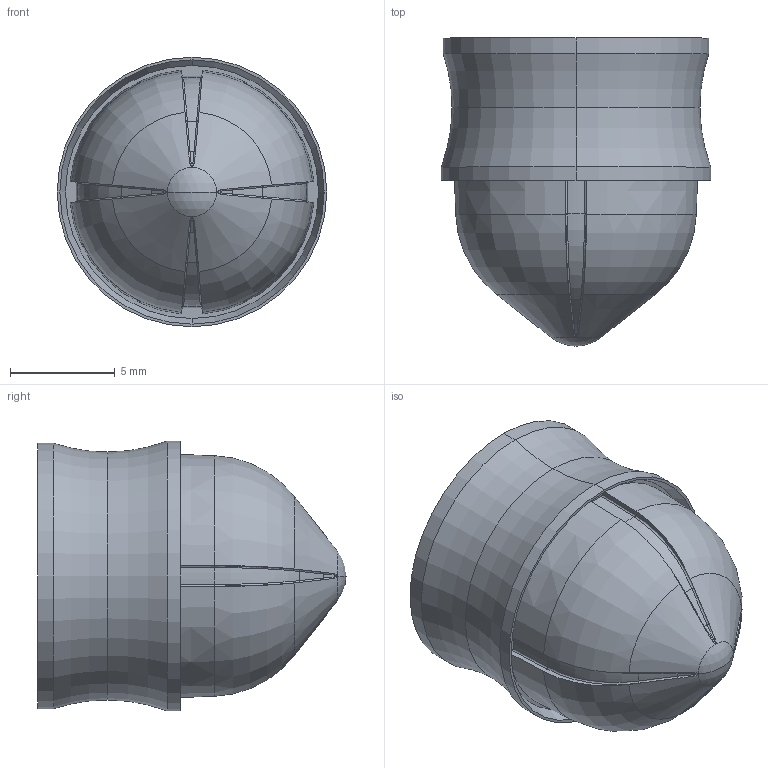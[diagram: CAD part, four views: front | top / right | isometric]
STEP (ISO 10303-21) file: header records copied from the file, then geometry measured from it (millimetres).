
FILE_DESCRIPTION (( 'STEP AP214' ), '1' );
FILE_NAME ('NORDSONEFD-7012028 PISTON O 5CC RD WIPER.STEP', '2020-09-17T07:07:10', ( '' ), ( '' ), 'SwSTEP 2.0', 'SolidWorks 2020', '' );
FILE_SCHEMA (( 'AUTOMOTIVE_DESIGN' ));
Length unit declared in the file: inch
Products named in the file (1): NORDSONEFD-7012028 PISTON O 5CC RD WIPER
Bounding box: 12.89 x 14.73 x 12.89 mm (x, y, z)
Volume: 338 mm3; surface area: 1209.1 mm2
Topology: 1 solids, 1 shells, 243 faces, 637 edges, 406 vertices
Faces by surface type: bspline 83, plane 71, torus 34, cone 33, cylinder 18, sphere 4
Entity records: 10525 total; most frequent: CARTESIAN_POINT 5161, ORIENTED_EDGE 1274, DIRECTION 894, EDGE_CURVE 637, VERTEX_POINT 406, AXIS2_PLACEMENT_3D 369, B_SPLINE_CURVE_WITH_KNOTS 273, EDGE_LOOP 253
